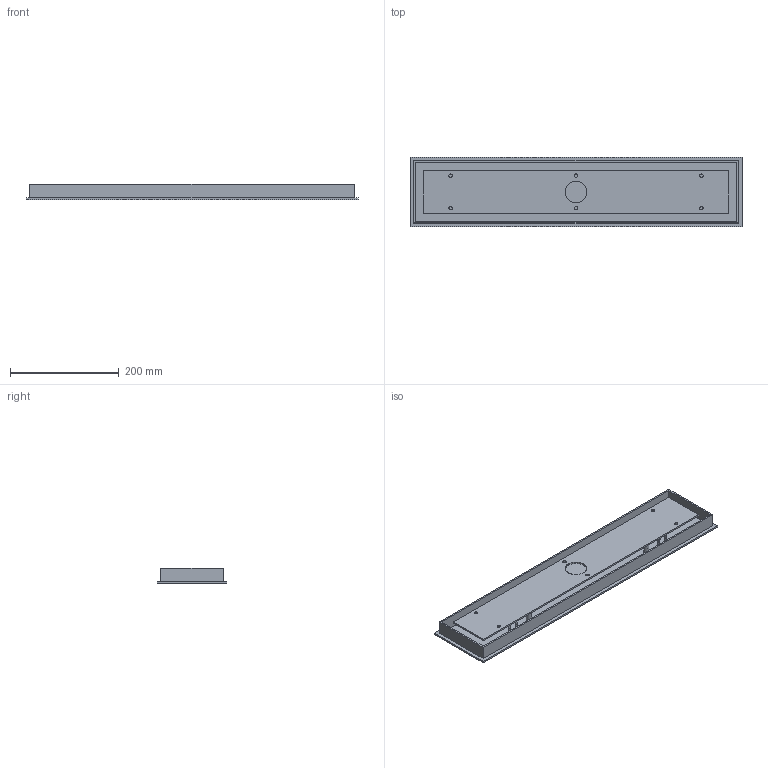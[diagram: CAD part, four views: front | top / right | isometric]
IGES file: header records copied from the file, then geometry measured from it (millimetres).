
Global section: file name: /Users/danielszollosi/Documents/SkLO/DEVELOPMENT/LIGHT 2024/MULTIPENDANT CANOPIES/Linear Multipendant Canopies/SkLO_Linear_Canopy_2'_MCL02/3D/SkLO_Linear_Canopy_2'_MCL02_3D.igs; native system: Rhinoceros ( Sep 24 2023 ); preprocessor: Trout Lake IGES 012 Sep 24 2023; date: 241018.134538; units: millimetre
Bounding box: 610 x 127 x 28.3 mm (x, y, z)
Surface area: 330204 mm2 (no closed solid volume)
Topology: 0 solids, 0 shells, 181 faces, 1069 edges, 998 vertices
Faces by surface type: bspline 181
